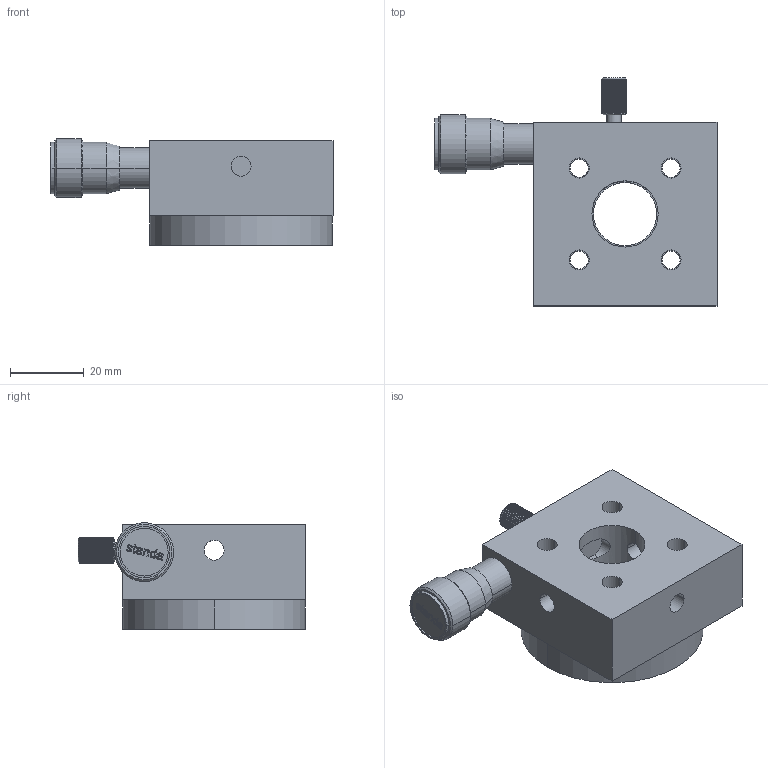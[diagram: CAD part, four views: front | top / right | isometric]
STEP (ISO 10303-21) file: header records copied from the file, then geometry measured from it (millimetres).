
FILE_DESCRIPTION (( 'STEP AP203' ), '1' );
FILE_NAME ('7R7.STEP', '2007-11-22T07:00:26', ( 'STANDA' ), ( '' ), 'SwSTEP 2.0', 'SolidWorks 2003240', '' );
FILE_SCHEMA (( 'CONFIG_CONTROL_DESIGN' ));
Length unit declared in the file: millimetre
Products named in the file (1): 7R7
Bounding box: 76.7 x 62 x 29 mm (x, y, z)
Volume: 59832.3 mm3; surface area: 17890.1 mm2
Topology: 1 solids, 5 shells, 496 faces, 1239 edges, 786 vertices
Faces by surface type: plane 291, cylinder 111, bspline 71, cone 23
Entity records: 16748 total; most frequent: CARTESIAN_POINT 5245, ORIENTED_EDGE 2468, DIRECTION 2173, EDGE_CURVE 1234, VERTEX_POINT 786, AXIS2_PLACEMENT_3D 770, VECTOR 633, LINE 633
